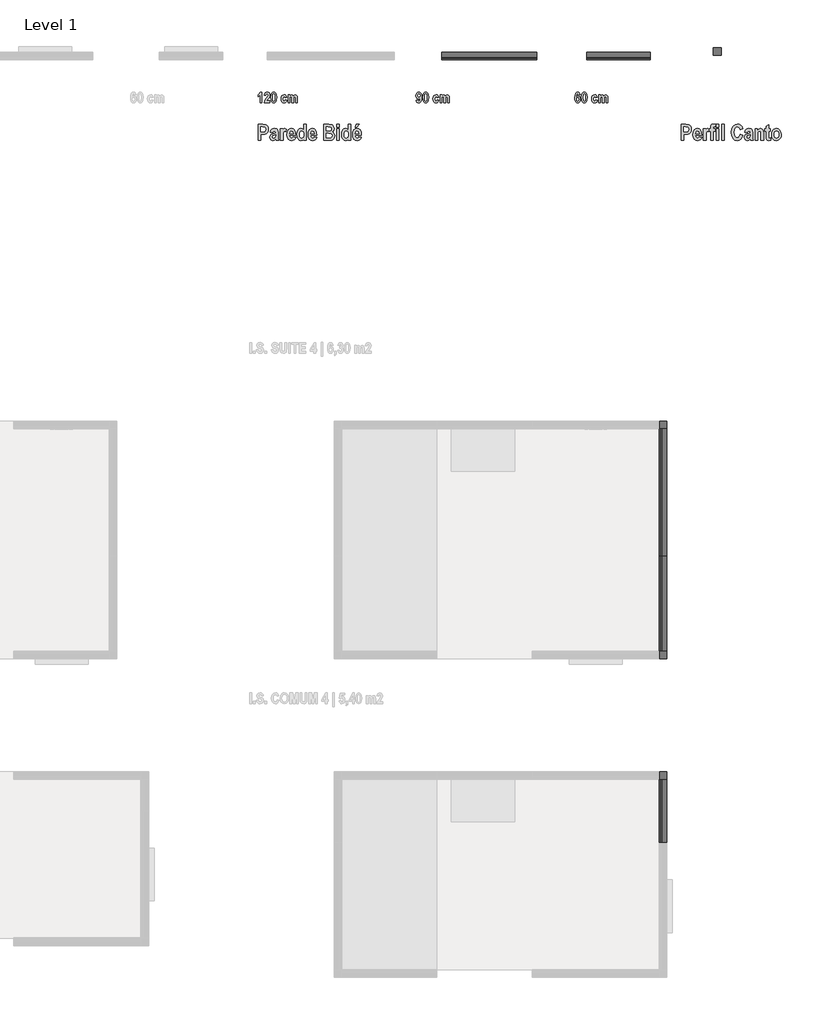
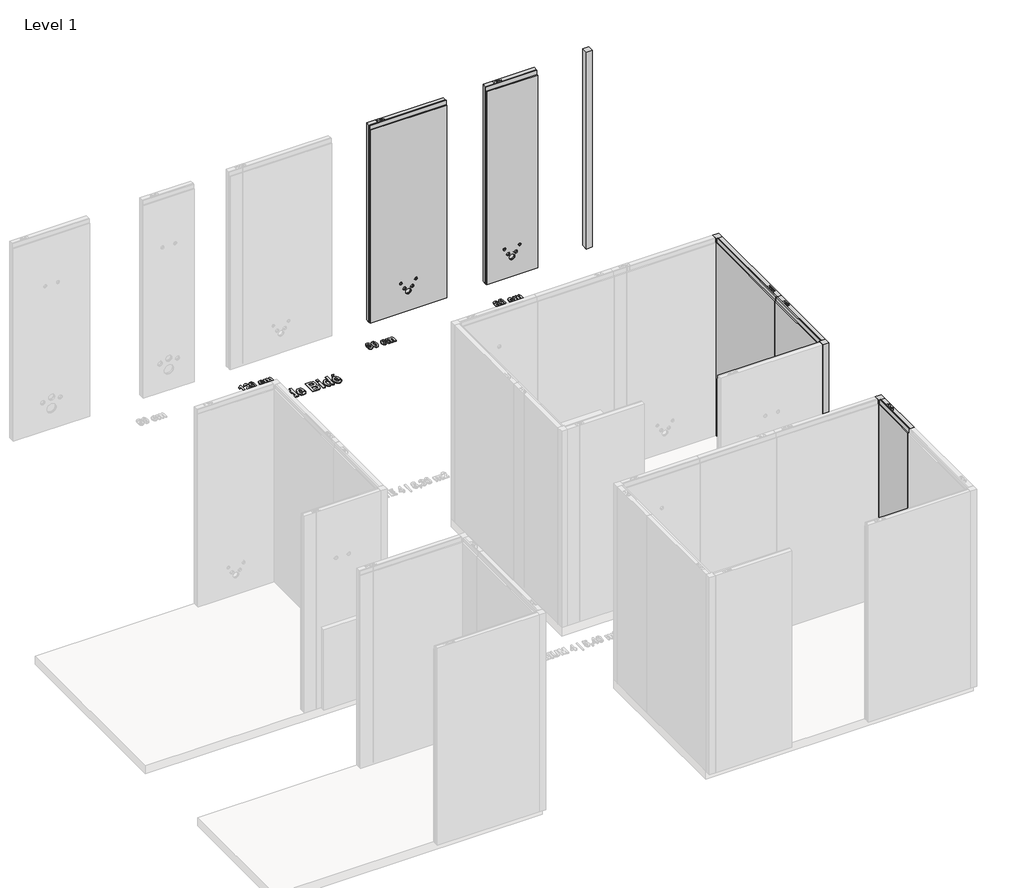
# One storey, part 10 of 10: 14 proxies.
"""IFC4 building model written with IfcOpenShell, lengths in millimetres."""

from ifc_helpers import new_model, si_unit, origin, origin_with_axes, place, context, project, spatial, polyline, outline, extrude, transform, mapped, element, save
from components import generic_models_3c551f1f, generic_models_aefc3c11, generic_models_6426e1e6, generic_models_14bfae6f, generic_models_87e237a0, generic_models_bfa109d8

model = new_model("IFC4")

# Units and contexts
model_context = context("Model", 3, world=origin())
ifc_project = project(units=[si_unit("LENGTHUNIT", "METRE", prefix="MILLI")], contexts=[model_context])

# Site, building, storey
site = spatial("IfcSite", under=ifc_project)
building = spatial("IfcBuilding", under=site)
storey = spatial("IfcBuildingStorey", under=building, Name="Level 1", Elevation=0.0)

# Proxies
placement = place(None, origin())
generic_models_shape = generic_models_3c551f1f(model_context)
element("IfcBuildingElementProxy", 1, Name="ParedeGeral_Blufab : Parede Geral - Largura 60 cm", ObjectType="ParedeGeral_Blufab : Parede Geral - Largura 60 cm", at=placement, inside=storey, context=model_context, shape_type="MappedRepresentation", body=[
    mapped(generic_models_shape, transform((8803.6595429, 1114.1909428, 0.0), x_axis=(0.0, -1.0, 0.0), y_axis=(1.0, 0.0, 0.0), z_axis=(0.0, 0.0, 1.0))),
])
generic_models_2_shape = generic_models_aefc3c11(model_context)
element("IfcBuildingElementProxy", 2, Name="ParedeGeral_Blufab : Parede Geral - Largura 90 cm", ObjectType="ParedeGeral_Blufab : Parede Geral - Largura 90 cm", at=placement, inside=storey, context=model_context, shape_type="MappedRepresentation", body=[
    mapped(generic_models_2_shape, transform((8803.6595429, 3227.3727477, 0.0), x_axis=(0.0, -1.0, 0.0), y_axis=(1.0, 0.0, 0.0), z_axis=(0.0, 0.0, 1.0))),
])
generic_models_3_shape = generic_models_6426e1e6(model_context)
element("IfcBuildingElementProxy", 3, Name="ParedeBidé_Blufab : Parede Bidé -Largura 60 cm", ObjectType="ParedeBidé_Blufab : Parede Bidé -Largura 60 cm", at=placement, inside=storey, context=model_context, shape_type="MappedRepresentation", body=[
    mapped(generic_models_3_shape, transform((8119.1272248, 7918.7563997, 0.0), x_axis=(1.0, 0.0, 0.0), y_axis=(0.0, 1.0, 0.0), z_axis=(0.0, 0.0, 1.0))),
])
generic_models_4_shape = generic_models_14bfae6f(model_context)
element("IfcBuildingElementProxy", 4, Name="ParedeBidé_Blufab : Parede Bidé - Largura 90 cm", ObjectType="ParedeBidé_Blufab : Parede Bidé - Largura 90 cm", at=placement, inside=storey, context=model_context, shape_type="MappedRepresentation", body=[
    mapped(generic_models_4_shape, transform((6749.1272248, 7918.7563997, 0.0), x_axis=(1.0, 0.0, 0.0), y_axis=(0.0, 1.0, 0.0), z_axis=(0.0, 0.0, 1.0))),
])
generic_models_5_shape = generic_models_87e237a0(model_context)
element("IfcBuildingElementProxy", 5, Name="PerfilCanto_Blufab : Parede Geral - Largura 60 cm", ObjectType="PerfilCanto_Blufab : Parede Geral - Largura 60 cm", at=placement, inside=storey, context=model_context, shape_type="MappedRepresentation", body=[
    mapped(generic_models_5_shape, transform((8803.6595429, 4427.3727477, 0.0), x_axis=(1.0, 0.0, 0.0), y_axis=(0.0, 1.0, 0.0), z_axis=(0.0, 0.0, 1.0))),
])
element("IfcBuildingElementProxy", 6, Name="PerfilCanto_Blufab : Parede Geral - Largura 60 cm", ObjectType="PerfilCanto_Blufab : Parede Geral - Largura 60 cm", at=placement, inside=storey, context=model_context, shape_type="MappedRepresentation", body=[
    mapped(generic_models_5_shape, transform((8803.6595429, 2254.3727477, 0.0), x_axis=(1.0, 0.0, 0.0), y_axis=(0.0, 1.0, 0.0), z_axis=(0.0, 0.0, 1.0))),
])
element("IfcBuildingElementProxy", 7, Name="PerfilCanto_Blufab : Parede Geral - Largura 60 cm", ObjectType="PerfilCanto_Blufab : Parede Geral - Largura 60 cm", at=placement, inside=storey, context=model_context, shape_type="MappedRepresentation", body=[
    mapped(generic_models_5_shape, transform((8803.6595429, 1114.1909428, 0.0), x_axis=(1.0, 0.0, 0.0), y_axis=(0.0, 1.0, 0.0), z_axis=(0.0, 0.0, 1.0))),
])
element("IfcBuildingElementProxy", 8, Name="PerfilCanto_Blufab : Parede Geral - Largura 60 cm", ObjectType="PerfilCanto_Blufab : Parede Geral - Largura 60 cm", at=placement, inside=storey, context=model_context, shape_type="MappedRepresentation", body=[
    mapped(generic_models_5_shape, transform((9316.3428581, 7960.3248075, 0.0), x_axis=(1.0, 0.0, 0.0), y_axis=(0.0, 1.0, 0.0), z_axis=(0.0, 0.0, 1.0))),
])
generic_models_6_shape = generic_models_bfa109d8(model_context)
element("IfcBuildingElementProxy", 9, Name="ParedeGeral_Blufab : Parede Geral - Largura 120 cm", ObjectType="ParedeGeral_Blufab : Parede Geral - Largura 120 cm", at=placement, inside=storey, context=model_context, shape_type="MappedRepresentation", body=[
    mapped(generic_models_6_shape, transform((8803.6595429, 3227.3727477, 0.0), x_axis=(0.0, 1.0, 0.0), y_axis=(-1.0, 0.0, 0.0), z_axis=(0.0, 0.0, 1.0))),
])
element("IfcBuildingElementProxy", 10, Name="24\" Arial", ObjectType="24\" Arial", at=placement, inside=storey, context=model_context, shape_type="SweptSolid", body=[
    extrude(outline(polyline([(5047.3448094, 7512.8748163), (5031.0998733, 7512.8748163), (5031.0998733, 7585.9770287), (5011.60595, 7571.3565863), (5011.60595, 7589.226016), (5025.0714791, 7598.3891752), (5034.754984, 7613.5934201), (5047.3448094, 7613.5934201), (5047.3448094, 7512.8748163)])), origin_with_axes(), (0.0, 0.0, 1.0), 10.0),
    extrude(outline(polyline([(5123.696009, 7529.1197524), (5123.696009, 7512.8748163), (5068.4632263, 7512.8748163), (5073.8443614, 7532.0768385), (5091.3076677, 7555.9746624), (5103.9482586, 7571.9150059), (5107.451073, 7584.1240907), (5104.6209005, 7594.0106573), (5097.196457, 7597.348484), (5089.4420383, 7593.6933734), (5086.332656, 7582.7280415), (5070.0877199, 7584.3525351), (5072.9496208, 7597.446842), (5078.6416941, 7606.5243346), (5086.9228041, 7611.8261487), (5097.551815, 7613.5934201), (5108.9264431, 7611.4485809), (5117.1091951, 7605.0140632), (5122.0493056, 7595.8064842), (5123.696009, 7585.3424609), (5122.02075, 7573.1714502), (5116.855368, 7561.3050321), (5105.2173942, 7546.0754045), (5095.6100375, 7534.5516529), (5092.3483589, 7529.1197524), (5123.696009, 7529.1197524)])), origin_with_axes(), (0.0, 0.0, 1.0), 10.0),
    extrude(outline(polyline([(5160.2217325, 7613.5934201), (5171.0791879, 7610.7473834), (5179.6395077, 7602.2092735), (5185.1983218, 7586.564004), (5187.0512598, 7562.3964887), (5185.1983218, 7538.2670475), (5179.6395077, 7522.6344693), (5171.0918792, 7514.0963594), (5160.272498, 7511.2503227), (5149.4150426, 7514.0709767), (5140.8547228, 7522.5329385), (5135.2959087, 7538.1908994), (5133.4429707, 7562.5995504), (5135.2959087, 7586.6147694), (5140.8547228, 7602.2092735), (5149.4023513, 7610.7473834), (5160.2217325, 7613.5934201)]), holes=[polyline([(5160.2471152, 7597.348484), (5152.5561533, 7591.256633), (5149.6879068, 7562.3964887), (5152.5561533, 7533.5617271), (5160.2471152, 7527.4952588), (5167.9761512, 7533.5871099), (5170.8063237, 7562.3964887), (5167.9761512, 7591.256633), (5160.2471152, 7597.348484)])]), origin_with_axes(), (0.0, 0.0, 1.0), 10.0),
    extrude(outline(polyline([(5284.5208763, 7564.8586118), (5268.2759402, 7561.6096246), (5264.8683111, 7568.9198458), (5257.9451762, 7571.3565863), (5248.9470046, 7566.5719449), (5245.5330297, 7550.4158483), (5248.8327824, 7532.6733322), (5257.6659664, 7527.4952588), (5264.4685333, 7530.3635053), (5268.2759402, 7540.4912077), (5284.5208763, 7537.2422205), (5281.067241, 7525.8707652), (5275.4021368, 7517.7482972), (5267.5255638, 7512.8748163), (5257.4375219, 7511.2503227), (5244.9714372, 7514.0360754), (5236.2048828, 7522.3933336), (5231.0172909, 7534.6722208), (5229.2880936, 7549.2228608), (5231.2742909, 7565.7596981), (5237.2328827, 7577.8037953), (5246.415079, 7585.1520906), (5258.0720898, 7587.6015223), (5267.5398416, 7586.2403744), (5275.0785072, 7582.1569305), (5284.5208763, 7564.8586118)])), origin_with_axes(), (0.0, 0.0, 1.0), 10.0),
    extrude(outline(polyline([(5295.8923316, 7585.9770287), (5310.5127741, 7585.9770287), (5310.5127741, 7576.0777708), (5319.0667482, 7584.7459672), (5329.1183024, 7587.6015223), (5339.0556344, 7584.7332758), (5345.9470409, 7576.0523881), (5354.4502496, 7584.7332758), (5364.1210632, 7587.6015223), (5374.6168148, 7584.6825104), (5381.317851, 7576.3189066), (5383.6149865, 7559.6043903), (5383.6149865, 7512.8748163), (5367.3700504, 7512.8748163), (5367.3700504, 7553.6394528), (5365.504421, 7567.8283892), (5359.2475823, 7571.3565863), (5350.9982007, 7566.4196487), (5347.8761271, 7547.1160957), (5347.8761271, 7512.8748163), (5331.631191, 7512.8748163), (5331.631191, 7551.9641938), (5330.3874381, 7566.9146115), (5323.7117846, 7571.3565863), (5317.49302, 7569.0721421), (5313.393712, 7562.3964887), (5312.1372677, 7547.5222191), (5312.1372677, 7512.8748163), (5295.8923316, 7512.8748163), (5295.8923316, 7585.9770287)])), origin_with_axes(), (0.0, 0.0, 1.0), 10.0),
])
element("IfcBuildingElementProxy", 11, Name="24\" Arial", ObjectType="24\" Arial", at=placement, inside=storey, context=model_context, shape_type="SweptSolid", body=[
    extrude(outline(polyline([(6506.7324692, 7537.2422205), (6522.9774053, 7538.8667141), (6525.8139234, 7530.3381226), (6532.0897991, 7527.4952588), (6540.9356745, 7532.9906161), (6545.3649578, 7555.39086), (6538.4481686, 7549.1086386), (6529.9068858, 7546.9891821), (6520.6993068, 7549.2228608), (6512.6212585, 7555.923897), (6506.9862963, 7566.3181178), (6505.1079756, 7579.6313506), (6507.0180247, 7593.7758672), (6512.7481721, 7604.5317917), (6521.2767635, 7611.328013), (6531.5821449, 7613.5934201), (6542.9980199, 7610.6648896), (6552.2182902, 7601.8792982), (6558.3101413, 7586.3101768), (6560.3407583, 7563.0310565), (6558.2276475, 7539.3140844), (6551.888315, 7523.3451853), (6542.1794274, 7514.2740384), (6529.9576513, 7511.2503227), (6521.4322327, 7512.8430879), (6514.5376533, 7517.6213836), (6509.5467775, 7525.7121233), (6506.7324692, 7537.2422205)]), holes=[polyline([(6544.0958222, 7579.2252272), (6540.3899462, 7592.6526822), (6531.9882683, 7597.348484), (6524.3861458, 7593.4776203), (6521.3529117, 7580.5958937), (6524.6653557, 7567.4222658), (6532.8258978, 7563.2341182), (6540.7833782, 7567.2318955), (6544.0958222, 7579.2252272)])]), origin_with_axes(), (0.0, 0.0, 1.0), 10.0),
    extrude(outline(polyline([(6596.8664818, 7613.5934201), (6607.7239371, 7610.7473834), (6616.284257, 7602.2092735), (6621.843071, 7586.564004), (6623.696009, 7562.3964887), (6621.843071, 7538.2670475), (6616.284257, 7522.6344693), (6607.7366285, 7514.0963594), (6596.9172472, 7511.2503227), (6586.0597919, 7514.0709767), (6577.499472, 7522.5329385), (6571.940658, 7538.1908994), (6570.0877199, 7562.5995504), (6571.940658, 7586.6147694), (6577.499472, 7602.2092735), (6586.0471005, 7610.7473834), (6596.8664818, 7613.5934201)]), holes=[polyline([(6596.8918645, 7597.348484), (6589.2009026, 7591.256633), (6586.332656, 7562.3964887), (6589.2009026, 7533.5617271), (6596.8918645, 7527.4952588), (6604.6209005, 7533.5871099), (6607.451073, 7562.3964887), (6604.6209005, 7591.256633), (6596.8918645, 7597.348484)])]), origin_with_axes(), (0.0, 0.0, 1.0), 10.0),
    extrude(outline(polyline([(6721.1656256, 7564.8586118), (6704.9206895, 7561.6096246), (6701.5130603, 7568.9198458), (6694.5899254, 7571.3565863), (6685.5917538, 7566.5719449), (6682.177779, 7550.4158483), (6685.4775316, 7532.6733322), (6694.3107156, 7527.4952588), (6701.1132826, 7530.3635053), (6704.9206895, 7540.4912077), (6721.1656256, 7537.2422205), (6717.7119902, 7525.8707652), (6712.0468861, 7517.7482972), (6704.170313, 7512.8748163), (6694.0822712, 7511.2503227), (6681.6161864, 7514.0360754), (6672.8496321, 7522.3933336), (6667.6620402, 7534.6722208), (6665.9328429, 7549.2228608), (6667.9190401, 7565.7596981), (6673.8776319, 7577.8037953), (6683.0598282, 7585.1520906), (6694.716839, 7587.6015223), (6704.1845908, 7586.2403744), (6711.7232565, 7582.1569305), (6721.1656256, 7564.8586118)])), origin_with_axes(), (0.0, 0.0, 1.0), 10.0),
    extrude(outline(polyline([(6732.5370808, 7585.9770287), (6747.1575233, 7585.9770287), (6747.1575233, 7576.0777708), (6755.7114975, 7584.7459672), (6765.7630517, 7587.6015223), (6775.7003837, 7584.7332758), (6782.5917902, 7576.0523881), (6791.0949989, 7584.7332758), (6800.7658124, 7587.6015223), (6811.2615641, 7584.6825104), (6817.9626002, 7576.3189066), (6820.2597357, 7559.6043903), (6820.2597357, 7512.8748163), (6804.0147996, 7512.8748163), (6804.0147996, 7553.6394528), (6802.1491703, 7567.8283892), (6795.8923316, 7571.3565863), (6787.64295, 7566.4196487), (6784.5208763, 7547.1160957), (6784.5208763, 7512.8748163), (6768.2759402, 7512.8748163), (6768.2759402, 7551.9641938), (6767.0321873, 7566.9146115), (6760.3565339, 7571.3565863), (6754.1377693, 7569.0721421), (6750.0384612, 7562.3964887), (6748.7820169, 7547.5222191), (6748.7820169, 7512.8748163), (6732.5370808, 7512.8748163), (6732.5370808, 7585.9770287)])), origin_with_axes(), (0.0, 0.0, 1.0), 10.0),
])
element("IfcBuildingElementProxy", 12, Name="24\" Arial", ObjectType="24\" Arial", at=placement, inside=storey, context=model_context, shape_type="SweptSolid", body=[
    extrude(outline(polyline([(8058.7162647, 7587.6015223), (8042.4713286, 7585.9770287), (8039.8124894, 7594.5056202), (8033.9173544, 7597.348484), (8025.8075777, 7591.8150526), (8021.7336524, 7569.3767347), (8028.3077749, 7575.7351042), (8036.3033294, 7577.8545607), (8045.3522665, 7575.6145363), (8053.1574506, 7568.8944631), (8058.5449314, 7558.4558226), (8060.3407583, 7545.060096), (8058.4878203, 7530.9504806), (8052.9290062, 7520.2484944), (8044.6352048, 7513.4998656), (8034.577305, 7511.2503227), (8023.5770719, 7514.182026), (8014.6391842, 7522.977136), (8008.7091479, 7538.5557759), (8006.7324692, 7561.838069), (8008.7821232, 7585.5360041), (8014.9310854, 7601.4985575), (8024.2973063, 7610.5697044), (8035.9987369, 7613.5934201), (8044.1656247, 7611.9816178), (8050.9491546, 7607.1462111), (8055.9368577, 7599.0364344), (8058.7162647, 7587.6015223)]), holes=[polyline([(8022.9774053, 7545.6692811), (8026.3913801, 7532.1656779), (8034.1965643, 7527.4952588), (8041.2783411, 7531.3661225), (8044.0958222, 7544.0701702), (8041.0372053, 7557.421477), (8033.4604656, 7561.6096246), (8026.0360222, 7557.6118474), (8022.9774053, 7545.6692811)])]), origin_with_axes(), (0.0, 0.0, 1.0), 10.0),
    extrude(outline(polyline([(8096.8664818, 7613.5934201), (8107.7239371, 7610.7473834), (8116.284257, 7602.2092735), (8121.843071, 7586.564004), (8123.696009, 7562.3964887), (8121.843071, 7538.2670475), (8116.284257, 7522.6344693), (8107.7366285, 7514.0963594), (8096.9172472, 7511.2503227), (8086.0597919, 7514.0709767), (8077.499472, 7522.5329385), (8071.940658, 7538.1908994), (8070.0877199, 7562.5995504), (8071.940658, 7586.6147694), (8077.499472, 7602.2092735), (8086.0471005, 7610.7473834), (8096.8664818, 7613.5934201)]), holes=[polyline([(8096.8918645, 7597.348484), (8089.2009026, 7591.256633), (8086.332656, 7562.3964887), (8089.2009026, 7533.5617271), (8096.8918645, 7527.4952588), (8104.6209005, 7533.5871099), (8107.451073, 7562.3964887), (8104.6209005, 7591.256633), (8096.8918645, 7597.348484)])]), origin_with_axes(), (0.0, 0.0, 1.0), 10.0),
    extrude(outline(polyline([(8221.1656256, 7564.8586118), (8204.9206895, 7561.6096246), (8201.5130603, 7568.9198458), (8194.5899254, 7571.3565863), (8185.5917538, 7566.5719449), (8182.177779, 7550.4158483), (8185.4775316, 7532.6733322), (8194.3107156, 7527.4952588), (8201.1132826, 7530.3635053), (8204.9206895, 7540.4912077), (8221.1656256, 7537.2422205), (8217.7119902, 7525.8707652), (8212.0468861, 7517.7482972), (8204.170313, 7512.8748163), (8194.0822712, 7511.2503227), (8181.6161864, 7514.0360754), (8172.8496321, 7522.3933336), (8167.6620402, 7534.6722208), (8165.9328429, 7549.2228608), (8167.9190401, 7565.7596981), (8173.8776319, 7577.8037953), (8183.0598282, 7585.1520906), (8194.716839, 7587.6015223), (8204.1845908, 7586.2403744), (8211.7232565, 7582.1569305), (8221.1656256, 7564.8586118)])), origin_with_axes(), (0.0, 0.0, 1.0), 10.0),
    extrude(outline(polyline([(8232.5370808, 7585.9770287), (8247.1575233, 7585.9770287), (8247.1575233, 7576.0777708), (8255.7114975, 7584.7459672), (8265.7630517, 7587.6015223), (8275.7003837, 7584.7332758), (8282.5917902, 7576.0523881), (8291.0949989, 7584.7332758), (8300.7658124, 7587.6015223), (8311.2615641, 7584.6825104), (8317.9626002, 7576.3189066), (8320.2597357, 7559.6043903), (8320.2597357, 7512.8748163), (8304.0147996, 7512.8748163), (8304.0147996, 7553.6394528), (8302.1491703, 7567.8283892), (8295.8923316, 7571.3565863), (8287.64295, 7566.4196487), (8284.5208763, 7547.1160957), (8284.5208763, 7512.8748163), (8268.2759402, 7512.8748163), (8268.2759402, 7551.9641938), (8267.0321873, 7566.9146115), (8260.3565339, 7571.3565863), (8254.1377693, 7569.0721421), (8250.0384612, 7562.3964887), (8248.7820169, 7547.5222191), (8248.7820169, 7512.8748163), (8232.5370808, 7512.8748163), (8232.5370808, 7585.9770287)])), origin_with_axes(), (0.0, 0.0, 1.0), 10.0),
])
element("IfcBuildingElementProxy", 13, Name="24\" Arial 2", ObjectType="24\" Arial 2", at=placement, inside=storey, context=model_context, shape_type="SweptSolid", body=[
    extrude(outline(polyline([(5014.0426904, 7157.133031), (5014.0426904, 7308.2109366), (5054.2869813, 7308.2109366), (5083.6801626, 7306.0407147), (5093.7555131, 7300.4961784), (5101.8986046, 7290.9443464), (5107.2813261, 7277.7183667), (5109.0755666, 7261.1513874), (5107.5145297, 7245.9598339), (5102.8314193, 7233.4334652), (5095.8067535, 7223.9054294), (5087.221051, 7217.7088747), (5074.4757564, 7214.3107641), (5054.9723146, 7213.1780605), (5038.4100946, 7213.1780605), (5038.4100946, 7157.133031), (5014.0426904, 7157.133031)]), holes=[polyline([(5038.4100946, 7283.8435325), (5038.4100946, 7237.5454646), (5052.9163148, 7237.5454646), (5072.7529048, 7239.6585755), (5081.3576444, 7247.2733893), (5084.7081624, 7260.8087208), (5081.2434222, 7274.4963486), (5072.6957937, 7281.9588661), (5051.1649077, 7283.8435325), (5038.4100946, 7283.8435325)])]), origin_with_axes(), (0.0, 0.0, 1.0), 10.0),
    extrude(outline(polyline([(5150.5001536, 7230.2352434), (5126.1327495, 7235.1087242), (5131.2441932, 7250.7476481), (5138.8875626, 7261.2656096), (5149.7386722, 7267.2337199), (5164.4733369, 7269.22309), (5187.146445, 7264.9968684), (5198.3211842, 7253.4794625), (5201.6717023, 7226.9989475), (5201.4432579, 7193.1511002), (5202.5283688, 7171.9438438), (5206.5451831, 7157.133031), (5182.177779, 7157.133031), (5179.2080016, 7169.0121405), (5166.6435588, 7158.2752531), (5152.403857, 7154.6962906), (5140.9150067, 7156.876031), (5131.7296376, 7163.4152524), (5125.7044162, 7173.5715103), (5123.696009, 7186.6023604), (5126.970379, 7202.6125064), (5136.1843037, 7213.5207271), (5155.2213381, 7220.7548002), (5177.3042981, 7227.798503), (5176.2191872, 7238.85902), (5172.2214099, 7243.1804268), (5163.978374, 7244.8556859), (5155.5068937, 7241.7716863), (5150.5001536, 7230.2352434)]), holes=[polyline([(5177.3042981, 7208.3045797), (5164.3971888, 7204.6494691), (5151.1854868, 7199.2429513), (5148.0634132, 7191.5900634), (5151.5091164, 7182.6807313), (5160.132893, 7179.0636947), (5169.2897066, 7181.976361), (5175.552891, 7188.8868045), (5177.3042981, 7203.4310989), (5177.3042981, 7208.3045797)])]), origin_with_axes(), (0.0, 0.0, 1.0), 10.0),
    extrude(outline(polyline([(5247.9697701, 7157.133031), (5223.602366, 7157.133031), (5223.602366, 7266.7863496), (5245.5330297, 7266.7863496), (5245.5330297, 7251.3282776), (5255.1467321, 7265.7012386), (5264.9127308, 7269.22309), (5279.6473955, 7263.7784982), (5272.2991002, 7237.735835), (5262.247546, 7242.4189455), (5254.3471767, 7238.7828719), (5249.4546588, 7225.6473181), (5247.9697701, 7190.6762858), (5247.9697701, 7157.133031)])), origin_with_axes(), (0.0, 0.0, 1.0), 10.0),
    extrude(outline(polyline([(5343.0026462, 7191.2473968), (5367.3700504, 7186.373916), (5361.2924771, 7172.3483808), (5352.5782746, 7162.4824377), (5341.4558872, 7156.6428274), (5328.1537594, 7154.6962906), (5310.4778728, 7158.0277716), (5297.3518376, 7168.0222147), (5287.7286166, 7186.5833233), (5284.5208763, 7211.3505052), (5287.7095796, 7236.060576), (5297.2756894, 7255.2879808), (5309.6402433, 7265.7393127), (5325.183982, 7269.22309), (5342.1650167, 7265.6536461), (5355.034052, 7254.9453142), (5364.3717174, 7234.7279835), (5367.4842726, 7206.7435429), (5367.3700504, 7203.4310989), (5308.8882805, 7203.4310989), (5310.4160025, 7193.1273039), (5314.6184278, 7185.4411013), (5320.7245566, 7180.6580464), (5327.963389, 7179.0636947), (5337.3581655, 7182.1096202), (5343.0026462, 7191.2473968)]), holes=[polyline([(5343.0026462, 7220.4882817), (5337.8245729, 7238.7447978), (5326.2119818, 7244.8556859), (5319.6442049, 7243.2660935), (5314.180576, 7238.4973164), (5309.3070952, 7220.4882817), (5343.0026462, 7220.4882817)])]), origin_with_axes(), (0.0, 0.0, 1.0), 10.0),
    extrude(outline(polyline([(5467.2764073, 7157.133031), (5445.3457436, 7157.133031), (5445.3457436, 7173.0860659), (5432.4195972, 7159.2842159), (5417.0947844, 7154.6962906), (5402.9788234, 7158.4513456), (5390.7856028, 7169.7165108), (5382.361715, 7187.939712), (5379.5537524, 7212.5688754), (5382.2617706, 7237.1885202), (5390.3858251, 7254.9262771), (5402.4695827, 7265.6488868), (5417.0567104, 7269.22309), (5431.0108566, 7265.4347202), (5442.9090032, 7254.0696106), (5442.9090032, 7308.2109366), (5467.2764073, 7308.2109366), (5467.2764073, 7157.133031)]), holes=[polyline([(5403.9211566, 7213.8633938), (5406.4150081, 7192.8845818), (5413.534859, 7182.528435), (5423.9481169, 7179.0636947), (5431.1679122, 7181.0673426), (5437.3692262, 7187.0782862), (5441.6382811, 7197.1250812), (5443.0612995, 7211.236283), (5441.6763552, 7226.6229661), (5437.5215224, 7236.9933906), (5431.2345418, 7242.8901121), (5423.453154, 7244.8556859), (5415.9192476, 7242.9234269), (5409.6132299, 7237.1266499), (5405.3441749, 7227.4463179), (5403.9211566, 7213.8633938)])]), origin_with_axes(), (0.0, 0.0, 1.0), 10.0),
    extrude(outline(polyline([(5542.8153601, 7191.2473968), (5567.1827643, 7186.373916), (5561.105191, 7172.3483808), (5552.3909885, 7162.4824377), (5541.2686011, 7156.6428274), (5527.9664732, 7154.6962906), (5510.2905867, 7158.0277716), (5497.1645515, 7168.0222147), (5487.5413305, 7186.5833233), (5484.3335902, 7211.3505052), (5487.5222935, 7236.060576), (5497.0884033, 7255.2879808), (5509.4529572, 7265.7393127), (5524.9966959, 7269.22309), (5541.9777306, 7265.6536461), (5554.8467659, 7254.9453142), (5564.1844313, 7234.7279835), (5567.2969865, 7206.7435429), (5567.1827643, 7203.4310989), (5508.7009944, 7203.4310989), (5510.2287164, 7193.1273039), (5514.4311417, 7185.4411013), (5520.5372705, 7180.6580464), (5527.7761029, 7179.0636947), (5537.1708794, 7182.1096202), (5542.8153601, 7191.2473968)]), holes=[polyline([(5542.8153601, 7220.4882817), (5537.6372868, 7238.7447978), (5526.0246957, 7244.8556859), (5519.4569188, 7243.2660935), (5513.9932899, 7238.4973164), (5509.1198091, 7220.4882817), (5542.8153601, 7220.4882817)])]), origin_with_axes(), (0.0, 0.0, 1.0), 10.0),
    extrude(outline(polyline([(5632.9747554, 7308.2109366), (5682.432971, 7308.2109366), (5710.9123746, 7304.4796779), (5724.7903727, 7291.30605), (5730.444372, 7269.9084233), (5725.5899282, 7250.0337593), (5713.0064484, 7236.8982055), (5722.3393545, 7231.6297062), (5729.3973351, 7223.5913184), (5733.8377234, 7213.1447457), (5735.3178528, 7200.6516918), (5733.3617975, 7185.5410457), (5727.4936316, 7172.9528067), (5718.9602809, 7163.7912338), (5709.0086711, 7158.9605863), (5674.5516387, 7157.133031), (5632.9747554, 7157.133031), (5632.9747554, 7308.2109366)]), holes=[polyline([(5657.3421596, 7283.8435325), (5657.3421596, 7247.2924263), (5673.9424536, 7247.2924263), (5692.4083771, 7247.8254633), (5702.4408943, 7253.4794625), (5706.0769678, 7265.9487201), (5703.1262275, 7277.3138297), (5695.9683025, 7282.7584215), (5671.8483798, 7283.8435325), (5657.3421596, 7283.8435325)]), polyline([(5657.3421596, 7222.9250222), (5657.3421596, 7181.5004351), (5680.7957861, 7181.5004351), (5700.632376, 7183.1376201), (5707.9806713, 7189.5911748), (5710.9504487, 7201.7939139), (5707.7712639, 7214.3202826), (5699.3188206, 7221.0784298), (5677.7879346, 7222.9250222), (5657.3421596, 7222.9250222)])]), origin_with_axes(), (0.0, 0.0, 1.0), 10.0),
    extrude(outline(polyline([(5757.2485165, 7281.4067921), (5757.2485165, 7308.2109366), (5781.6159207, 7308.2109366), (5781.6159207, 7281.4067921), (5757.2485165, 7281.4067921)])), origin_with_axes(), (0.0, 0.0, 1.0), 10.0),
    extrude(outline(polyline([(5757.2485165, 7157.133031), (5757.2485165, 7266.7863496), (5781.6159207, 7266.7863496), (5781.6159207, 7157.133031), (5757.2485165, 7157.133031)])), origin_with_axes(), (0.0, 0.0, 1.0), 10.0),
    extrude(outline(polyline([(5888.8324988, 7157.133031), (5866.9018351, 7157.133031), (5866.9018351, 7173.0860659), (5853.9756887, 7159.2842159), (5838.650876, 7154.6962906), (5824.5349149, 7158.4513456), (5812.3416943, 7169.7165108), (5803.9178065, 7187.939712), (5801.109844, 7212.5688754), (5803.8178621, 7237.1885202), (5811.9419166, 7254.9262771), (5824.0256742, 7265.6488868), (5838.6128019, 7269.22309), (5852.5669482, 7265.4347202), (5864.4650947, 7254.0696106), (5864.4650947, 7308.2109366), (5888.8324988, 7308.2109366), (5888.8324988, 7157.133031)]), holes=[polyline([(5825.4772481, 7213.8633938), (5827.9710996, 7192.8845818), (5835.0909505, 7182.528435), (5845.5042084, 7179.0636947), (5852.7240037, 7181.0673426), (5858.9253177, 7187.0782862), (5863.1943727, 7197.1250812), (5864.617391, 7211.236283), (5863.2324467, 7226.6229661), (5859.077614, 7236.9933906), (5852.7906333, 7242.8901121), (5845.0092455, 7244.8556859), (5837.4753391, 7242.9234269), (5831.1693214, 7237.1266499), (5826.9002664, 7227.4463179), (5825.4772481, 7213.8633938)])]), origin_with_axes(), (0.0, 0.0, 1.0), 10.0),
    extrude(outline(polyline([(5930.2570859, 7278.9700517), (5941.374714, 7308.2109366), (5966.8081921, 7308.2109366), (5944.6110099, 7278.9700517), (5930.2570859, 7278.9700517)])), origin_with_axes(), (0.0, 0.0, 1.0), 10.0),
    extrude(outline(polyline([(5964.3714517, 7191.2473968), (5988.7388558, 7186.373916), (5982.6612825, 7172.3483808), (5973.94708, 7162.4824377), (5962.8246926, 7156.6428274), (5949.5225648, 7154.6962906), (5931.8466782, 7158.0277716), (5918.720643, 7168.0222147), (5909.097422, 7186.5833233), (5905.8896817, 7211.3505052), (5909.078385, 7236.060576), (5918.6444948, 7255.2879808), (5931.0090487, 7265.7393127), (5946.5527874, 7269.22309), (5963.5338221, 7265.6536461), (5976.4028574, 7254.9453142), (5985.7405229, 7234.7279835), (5988.853078, 7206.7435429), (5988.7388558, 7203.4310989), (5930.2570859, 7203.4310989), (5931.7848079, 7193.1273039), (5935.9872332, 7185.4411013), (5942.0933621, 7180.6580464), (5949.3321944, 7179.0636947), (5958.7269709, 7182.1096202), (5964.3714517, 7191.2473968)]), holes=[polyline([(5964.3714517, 7220.4882817), (5959.1933783, 7238.7447978), (5947.5807872, 7244.8556859), (5941.0130104, 7243.2660935), (5935.5493815, 7238.4973164), (5930.6759006, 7220.4882817), (5964.3714517, 7220.4882817)])]), origin_with_axes(), (0.0, 0.0, 1.0), 10.0),
])
element("IfcBuildingElementProxy", 14, Name="24\" Arial 2", ObjectType="24\" Arial 2", at=placement, inside=storey, context=model_context, shape_type="SweptSolid", body=[
    extrude(outline(polyline([(9014.0426904, 7157.133031), (9014.0426904, 7308.2109366), (9054.2869813, 7308.2109366), (9083.6801626, 7306.0407147), (9093.7555131, 7300.4961784), (9101.8986046, 7290.9443464), (9107.2813261, 7277.7183667), (9109.0755666, 7261.1513874), (9107.5145297, 7245.9598339), (9102.8314193, 7233.4334652), (9095.8067535, 7223.9054294), (9087.221051, 7217.7088747), (9074.4757564, 7214.3107641), (9054.9723146, 7213.1780605), (9038.4100946, 7213.1780605), (9038.4100946, 7157.133031), (9014.0426904, 7157.133031)]), holes=[polyline([(9038.4100946, 7283.8435325), (9038.4100946, 7237.5454646), (9052.9163148, 7237.5454646), (9072.7529048, 7239.6585755), (9081.3576444, 7247.2733893), (9084.7081624, 7260.8087208), (9081.2434222, 7274.4963486), (9072.6957937, 7281.9588661), (9051.1649077, 7283.8435325), (9038.4100946, 7283.8435325)])]), origin_with_axes(), (0.0, 0.0, 1.0), 10.0),
    extrude(outline(polyline([(9182.177779, 7191.2473968), (9206.5451831, 7186.373916), (9200.4676098, 7172.3483808), (9191.7534073, 7162.4824377), (9180.6310199, 7156.6428274), (9167.3288921, 7154.6962906), (9149.6530056, 7158.0277716), (9136.5269703, 7168.0222147), (9126.9037494, 7186.5833233), (9123.696009, 7211.3505052), (9126.8847123, 7236.060576), (9136.4508221, 7255.2879808), (9148.815376, 7265.7393127), (9164.3591147, 7269.22309), (9181.3401494, 7265.6536461), (9194.2091848, 7254.9453142), (9203.5468502, 7234.7279835), (9206.6594053, 7206.7435429), (9206.5451831, 7203.4310989), (9148.0634132, 7203.4310989), (9149.5911352, 7193.1273039), (9153.7935606, 7185.4411013), (9159.8996894, 7180.6580464), (9167.1385217, 7179.0636947), (9176.5332982, 7182.1096202), (9182.177779, 7191.2473968)]), holes=[polyline([(9182.177779, 7220.4882817), (9176.9997056, 7238.7447978), (9165.3871146, 7244.8556859), (9158.8193377, 7243.2660935), (9153.3557088, 7238.4973164), (9148.4822279, 7220.4882817), (9182.177779, 7220.4882817)])]), origin_with_axes(), (0.0, 0.0, 1.0), 10.0),
    extrude(outline(polyline([(9291.8310976, 7266.7863496), (9291.8310976, 7274.9722744), (9294.5914676, 7296.4270123), (9303.5579108, 7306.8593072), (9318.7875384, 7310.647677), (9338.1291654, 7306.9544924), (9335.0451658, 7284.6430879), (9324.9555376, 7286.2802729), (9318.2735385, 7283.7102733), (9316.1985017, 7273.639682), (9316.1985017, 7266.7863496), (9333.2556846, 7266.7863496), (9333.2556846, 7242.4189455), (9316.1985017, 7242.4189455), (9316.1985017, 7157.133031), (9291.8310976, 7157.133031), (9291.8310976, 7242.4189455), (9279.6473955, 7242.4189455), (9279.6473955, 7263.7784982), (9279.6473955, 7266.7863496), (9291.8310976, 7266.7863496)])), origin_with_axes(), (0.0, 0.0, 1.0), 10.0),
    extrude(outline(polyline([(9247.9697701, 7157.133031), (9223.602366, 7157.133031), (9223.602366, 7266.7863496), (9245.5330297, 7266.7863496), (9245.5330297, 7251.3282776), (9255.1467321, 7265.7012386), (9264.9127308, 7269.22309), (9279.6473955, 7263.7784982), (9272.2991002, 7237.735835), (9262.247546, 7242.4189455), (9254.3471767, 7238.7828719), (9249.4546588, 7225.6473181), (9247.9697701, 7190.6762858), (9247.9697701, 7157.133031)])), origin_with_axes(), (0.0, 0.0, 1.0), 10.0),
    extrude(outline(polyline([(9345.4393867, 7281.4067921), (9345.4393867, 7308.2109366), (9369.8067908, 7308.2109366), (9369.8067908, 7281.4067921), (9345.4393867, 7281.4067921)])), origin_with_axes(), (0.0, 0.0, 1.0), 10.0),
    extrude(outline(polyline([(9345.4393867, 7157.133031), (9345.4393867, 7266.7863496), (9369.8067908, 7266.7863496), (9369.8067908, 7157.133031), (9345.4393867, 7157.133031)])), origin_with_axes(), (0.0, 0.0, 1.0), 10.0),
    extrude(outline(polyline([(9394.1741949, 7157.133031), (9394.1741949, 7308.2109366), (9418.5415991, 7308.2109366), (9418.5415991, 7157.133031), (9394.1741949, 7157.133031)])), origin_with_axes(), (0.0, 0.0, 1.0), 10.0),
    extrude(outline(polyline([(9569.6195047, 7213.1780605), (9593.9869088, 7203.4310989), (9586.4863172, 7181.4909166), (9575.2544669, 7166.3850298), (9560.6435429, 7157.6184754), (9543.0057305, 7154.6962906), (9521.2178445, 7159.3508455), (9503.9798098, 7173.3145103), (9491.0727004, 7198.5766551), (9486.7703306, 7231.3393914), (9491.1107745, 7265.7202757), (9504.1321061, 7291.7248648), (9521.8079926, 7305.916974), (9544.6809895, 7310.647677), (9563.737061, 7307.1163071), (9579.4045404, 7296.5221975), (9588.0378355, 7284.0814954), (9593.9869088, 7266.7863496), (9569.6195047, 7259.4761284), (9565.9834311, 7269.8989047), (9559.9486912, 7277.5613111), (9552.0768774, 7282.2729772), (9542.9295823, 7283.8435325), (9530.1747692, 7280.9070699), (9520.0089928, 7272.0976822), (9513.3555493, 7256.5206288), (9511.1377348, 7233.2811689), (9513.2698826, 7209.2707092), (9519.6663262, 7193.3605076), (9529.470399, 7184.4654533), (9541.8254343, 7181.5004351), (9551.1535812, 7183.3993793), (9559.1110617, 7189.0962119), (9565.374246, 7198.9145624), (9569.6195047, 7213.1780605)])), origin_with_axes(), (0.0, 0.0, 1.0), 10.0),
    extrude(outline(polyline([(9637.8482363, 7230.2352434), (9613.4808321, 7235.1087242), (9618.5922759, 7250.7476481), (9626.2356452, 7261.2656096), (9637.0867549, 7267.2337199), (9651.8214196, 7269.22309), (9674.4945276, 7264.9968684), (9685.6692669, 7253.4794625), (9689.0197849, 7226.9989475), (9688.7913405, 7193.1511002), (9689.8764515, 7171.9438438), (9693.8932658, 7157.133031), (9669.5258616, 7157.133031), (9666.5560843, 7169.0121405), (9653.9916415, 7158.2752531), (9639.7519397, 7154.6962906), (9628.2630894, 7156.876031), (9619.0777203, 7163.4152524), (9613.0524989, 7173.5715103), (9611.0440917, 7186.6023604), (9614.3184616, 7202.6125064), (9623.5323863, 7213.5207271), (9642.5694208, 7220.7548002), (9664.6523808, 7227.798503), (9663.5672698, 7238.85902), (9659.5694926, 7243.1804268), (9651.3264567, 7244.8556859), (9642.8549763, 7241.7716863), (9637.8482363, 7230.2352434)]), holes=[polyline([(9664.6523808, 7208.3045797), (9651.7452714, 7204.6494691), (9638.5335695, 7199.2429513), (9635.4114959, 7191.5900634), (9638.8571991, 7182.6807313), (9647.4809757, 7179.0636947), (9656.6377893, 7181.976361), (9662.9009736, 7188.8868045), (9664.6523808, 7203.4310989), (9664.6523808, 7208.3045797)])]), origin_with_axes(), (0.0, 0.0, 1.0), 10.0),
    extrude(outline(polyline([(9791.3628823, 7157.133031), (9766.9954782, 7157.133031), (9766.9954782, 7211.7312459), (9765.7580709, 7233.5857615), (9761.1320716, 7241.9430196), (9753.4411096, 7244.8556859), (9743.4276295, 7241.0863531), (9737.1263711, 7230.6540582), (9735.3178528, 7205.5632467), (9735.3178528, 7157.133031), (9710.9504487, 7157.133031), (9710.9504487, 7266.7863496), (9732.8811124, 7266.7863496), (9732.8811124, 7248.8153891), (9745.8453329, 7264.1211648), (9761.8174048, 7269.22309), (9779.026884, 7263.7975352), (9788.6976975, 7249.862426), (9791.3628823, 7225.2475404), (9791.3628823, 7157.133031)])), origin_with_axes(), (0.0, 0.0, 1.0), 10.0),
    extrude(outline(polyline([(9857.1548735, 7266.7863496), (9857.1548735, 7242.4189455), (9840.0976906, 7242.4189455), (9840.0976906, 7199.3190994), (9840.897246, 7183.099546), (9847.2556155, 7179.0636947), (9857.5356142, 7181.8050277), (9859.5916139, 7158.9605863), (9840.0976906, 7154.6962906), (9824.9061371, 7158.9796233), (9817.2532492, 7171.2965847), (9815.7302864, 7195.2832481), (9815.7302864, 7242.4189455), (9803.5465844, 7242.4189455), (9803.5465844, 7266.7863496), (9815.7302864, 7266.7863496), (9815.7302864, 7288.7170133), (9840.0976906, 7305.7741962), (9840.0976906, 7266.7863496), (9857.1548735, 7266.7863496)])), origin_with_axes(), (0.0, 0.0, 1.0), 10.0),
    extrude(outline(polyline([(9866.9018351, 7213.5207271), (9868.4961868, 7228.8740954), (9873.2792417, 7242.7996862), (9880.6370555, 7254.3599253), (9889.9556839, 7262.6172391), (9900.906738, 7267.5716273), (9913.1618289, 7269.22309), (9932.4701411, 7264.9778313), (9947.1429355, 7252.2420553), (9956.409212, 7233.8332429), (9959.4979708, 7212.5688754), (9957.8893414, 7196.4825813), (9953.0634532, 7182.0334721), (9945.624732, 7170.0972515), (9936.1776036, 7161.549623), (9925.217031, 7156.4096237), (9913.237977, 7154.6962906), (9894.9767017, 7158.513216), (9880.0945, 7169.9639922), (9870.2000013, 7188.4870268), (9866.9018351, 7213.5207271)]), holes=[polyline([(9891.2692393, 7211.9596903), (9892.8921464, 7197.6866737), (9897.760868, 7187.3828788), (9904.9140337, 7181.1434907), (9913.3902733, 7179.0636947), (9921.7237352, 7181.1577685), (9928.7531601, 7187.4399899), (9933.5362151, 7197.8056552), (9935.1305667, 7212.1500606), (9933.5076595, 7226.2089106), (9928.6389379, 7236.4793907), (9921.5048093, 7242.7616121), (9913.0856808, 7244.8556859), (9904.7664967, 7242.7616121), (9897.7037569, 7236.4793907), (9892.8778687, 7226.161318), (9891.2692393, 7211.9596903)])]), origin_with_axes(), (0.0, 0.0, 1.0), 10.0),
])

save(model, "model.ifc")
